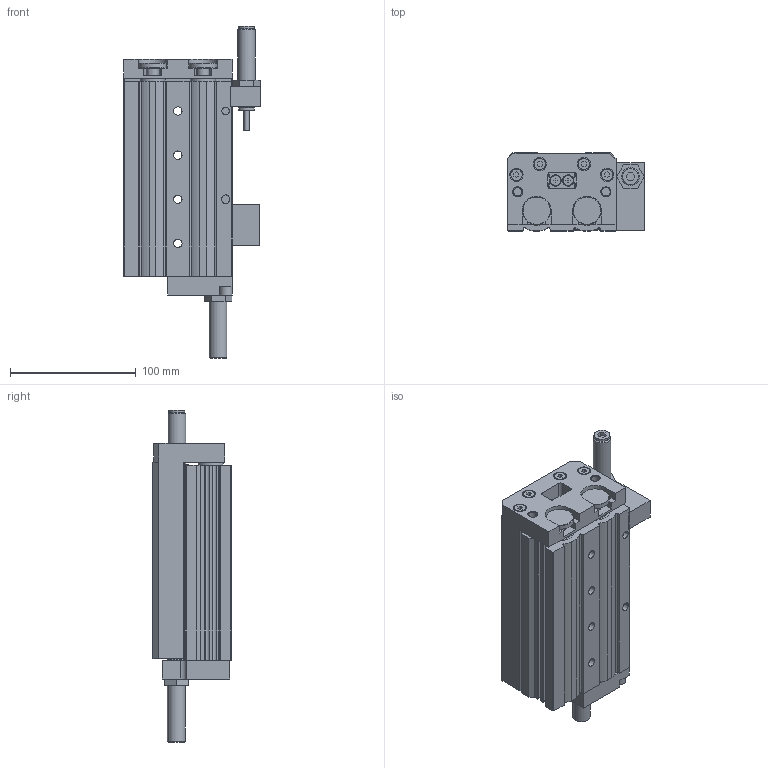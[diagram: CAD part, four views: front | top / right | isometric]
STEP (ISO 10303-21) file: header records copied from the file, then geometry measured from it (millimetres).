
FILE_DESCRIPTION( ( 'STEP AP214' ), '1' );
FILE_NAME( 'C:/Users/EMC02301/Desktop/ELSL图纸/ELSL25X75-S-B.stp', '2026-08-05T08:23:38', ( 'License CC BY-ND 4.0' ), ( 'CADENAS' ), ' ', 'PARTsolutions', ' ' );
FILE_SCHEMA( ( 'AUTOMOTIVE_DESIGN { 1 0 10303 214 1 1 1 1 }' ) );
Length unit declared in the file: millimetre
Products named in the file (6): ELSL25X75-S-B(0)(); _ELSL25X75-S-B(HX-07)(HX-07-1)(0-body); _ELSL25X75-S-B(0-rod); _FJ-ELS25-B; _FJ-ELSL25-B-(BS); _FJ-ELSL25-B-(BF)
Assembly tree (5 placements, depth 2):
  ELSL25X75-S-B(0)()
    _ELSL25X75-S-B(HX-07)(HX-07-1)(0-body)
    _ELSL25X75-S-B(0-rod)
    _FJ-ELS25-B
    _FJ-ELSL25-B-(BS)
    _FJ-ELSL25-B-(BF)
Bounding box: 108.5 x 62 x 263.5 mm (x, y, z)
Volume: 830064.2 mm3; surface area: 191233.9 mm2
Topology: 5 solids, 5 shells, 637 faces, 1538 edges, 1018 vertices
Faces by surface type: plane 465, cylinder 138, cone 34
Full cylindrical faces by diameter (mm): 4 x2, 4.917 x12, 6 x2, 6.647 x10, 6.8 x4, 8 x8, 8.566 x2, 9 x12, 10 x10, 10.267 x2, 10.5 x7, 10.667 x2, 10.9 x2, 12 x9, 12.6 x2, 14 x3, 20 x2, 22 x2, 23 x2, 25 x4, 26 x2
Entity records: 22833 total; most frequent: CARTESIAN_POINT 3018, DIRECTION 2979, ORIENTED_EDGE 2760, EDGE_CURVE 1380, LINE 1067, VECTOR 1067, VERTEX_POINT 995, AXIS2_PLACEMENT_3D 956
